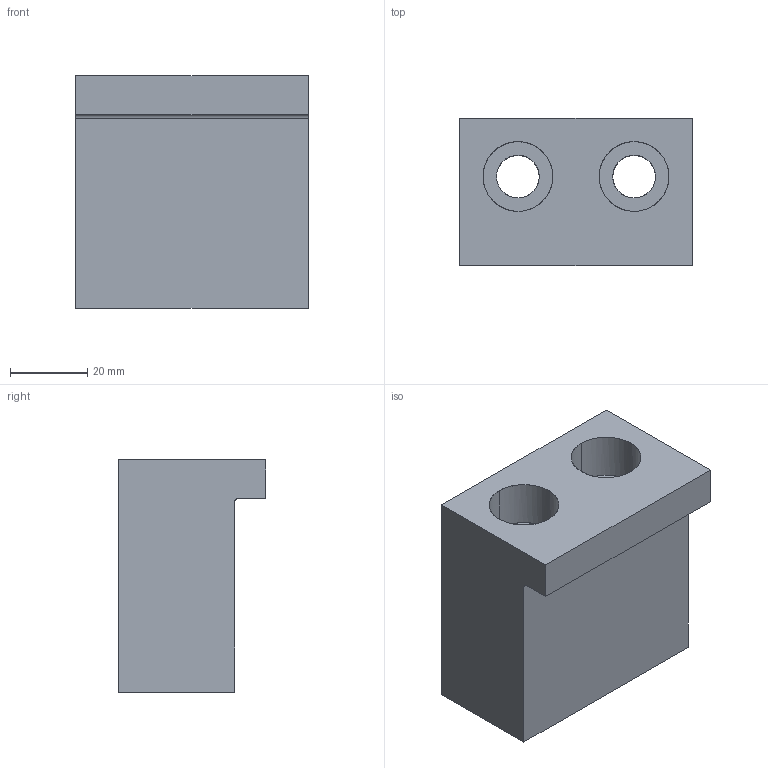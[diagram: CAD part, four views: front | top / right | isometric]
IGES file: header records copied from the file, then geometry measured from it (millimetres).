
Global section: file name: E:\UnigraphicsGraphicData\MISUMI_PRESS-PARTS\IGES\3d_bse60-50_01315_r00.igs; native system: NX V5.0; preprocessor: UGS NX IGES V5.0; author: MISUMI; date: 20110105.160141; units: millimetre
Bounding box: 60 x 38 x 60 mm (x, y, z)
Surface area: 19788 mm2 (no closed solid volume)
Topology: 0 solids, 0 shells, 19 faces, 142 edges, 142 vertices
Faces by surface type: bspline 19
